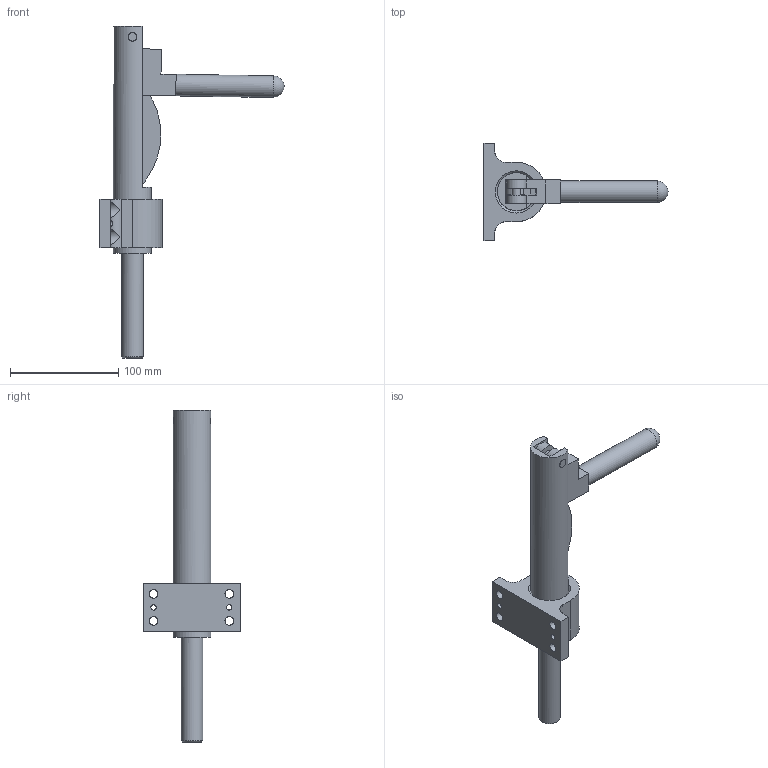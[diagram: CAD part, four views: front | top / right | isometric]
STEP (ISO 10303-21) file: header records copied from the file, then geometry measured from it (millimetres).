
FILE_DESCRIPTION(/* description */ (''),/* implementation_level */ '2;1');
FILE_NAME(/* name */ '840-6_.stp',/* time_stamp */ '2020-05-29T13:32:34+03:00',/* author */ (''),/* organization */ (''),/* preprocessor_version */ 'ST-DEVELOPER v16',/* originating_system */ 'SIEMENS PLM Software NX 11.0',/* authorisation */ '');
FILE_SCHEMA (('AUTOMOTIVE_DESIGN { 1 0 10303 214 3 1 1 1 }'));
Length unit declared in the file: millimetre
Products named in the file (9): ayak; percin3; percin2; percin1; mil; tirnak; yatak; kol; 840-6_stp
Assembly tree (8 placements, depth 2):
  840-6_stp
    kol
    yatak
    tirnak
    mil
    percin1
    percin2
    percin3
    ayak
Bounding box: 170.27 x 90 x 306.99 mm (x, y, z)
Volume: 327944.4 mm3; surface area: 96037 mm2
Topology: 9 solids, 9 shells, 107 faces, 284 edges, 192 vertices
Faces by surface type: plane 53, cylinder 45, cone 8, sphere 1
Full cylindrical faces by diameter (mm): 5 x2, 8 x17, 8.5 x2, 13.5 x4, 20 x3, 35 x2
Entity records: 3566 total; most frequent: CARTESIAN_POINT 859, DIRECTION 535, ORIENTED_EDGE 436, EDGE_CURVE 218, AXIS2_PLACEMENT_3D 213, EDGE_LOOP 179, VERTEX_POINT 167, FACE_BOUND 133
